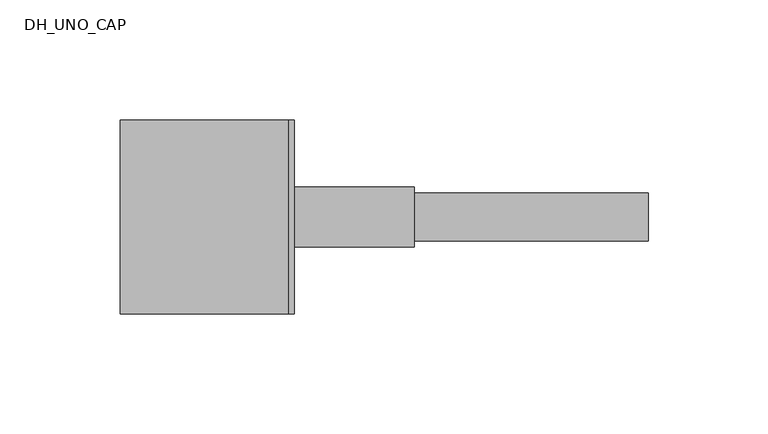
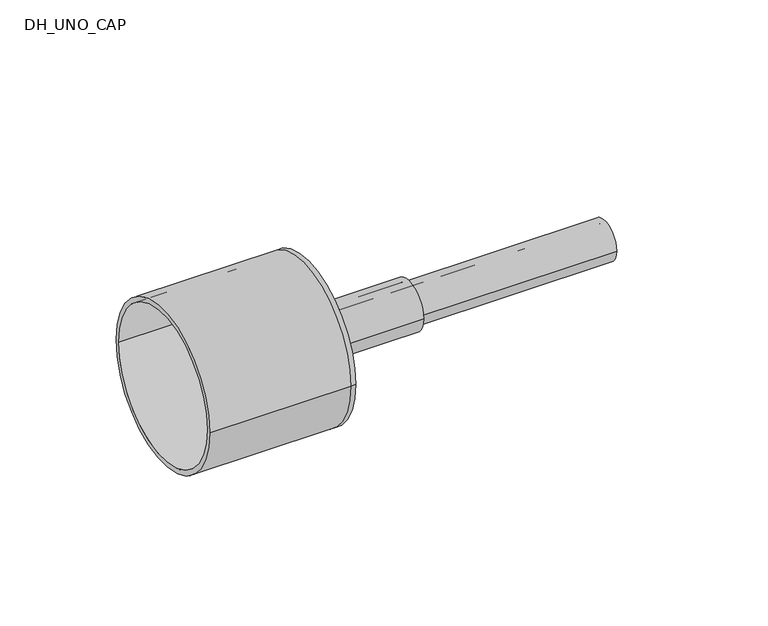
"""IFC4 building model written with IfcOpenShell, lengths in millimetres: pipe fitting geometry, DH_UNO_CAP : RAUTHERMEX UNO 7.4 DW - Schrink Cap."""

from ifc_helpers import new_model, si_unit, point, frame, origin, origin_2d, place, context, project, spatial, polyline, circle_curve, trimmed, segment, composite_curve, outline, extrude, source, transform, mapped, element, save
from ifc_brep_helpers import plane_surface, cylinder_surface, revolved_surface, advanced_brep


def dh_uno_cap_99b91bbb(model_context):
    return source(origin(), model_context, "Body", "SolidModel", [
        extrude(outline(composite_curve([segment(trimmed(circle_curve(origin_2d(), 10.0), [point((-10.0, 0.0))], [point((10.0, 0.0))], False, "CARTESIAN"), True, "CONTINUOUS"), segment(trimmed(circle_curve(origin_2d(), 10.0), [point((10.0, 0.0))], [point((-10.0, 0.0))], False, "CARTESIAN"), True, "CONTINUOUS")], self_intersect=False), holes=[composite_curve([segment(trimmed(circle_curve(origin_2d(), 7.2), [point((-7.2, 0.0))], [point((7.2, 0.0))], True, "CARTESIAN"), True, "CONTINUOUS"), segment(trimmed(circle_curve(origin_2d(), 7.2), [point((7.2, 0.0))], [point((-7.2, 0.0))], True, "CARTESIAN"), True, "CONTINUOUS")], self_intersect=False)]), frame((0.0, 0.0, 0.0), z_axis=(1.0, 0.0, 0.0), x_axis=(0.0, 1.0, 0.0)), (0.0, 0.0, 1.0), 150.0),
        advanced_brep(
        [(-70.0, -40.5, 0.0), (-70.0, 40.5, 0.0), (-70.0, -38.0, 0.0), (-70.0, 38.0, 0.0), (0.0, -38.0, 0.0), (0.0, 38.0, 0.0), (0.0, -40.5, 0.0), (0.0, 40.5, 0.0), (0.0, 10.0, 0.0), (0.0, -10.0, 0.0), (2.5, -40.5, 0.0), (2.5, 40.5, 0.0), (2.5, -10.0, 0.0), (2.5, 10.0, 0.0)],
        [
            (0, 1, circle_curve(frame((-70.0, 0.0, 0.0), z_axis=(-1.0, 0.0, 0.0), x_axis=(0.0, 1.0, 0.0)), 40.5)),
            (1, 0, circle_curve(frame((-70.0, 0.0, 0.0), z_axis=(-1.0, 0.0, 0.0), x_axis=(0.0, 1.0, 0.0)), 40.5)),
            (2, 3, circle_curve(frame((-70.0, 0.0, 0.0), z_axis=(1.0, 0.0, 0.0), x_axis=(0.0, 1.0, 0.0)), 38.0)),
            (3, 2, circle_curve(frame((-70.0, 0.0, 0.0), z_axis=(1.0, 0.0, 0.0), x_axis=(0.0, 1.0, 0.0)), 38.0)),
            (2, 4),
            (4, 5, circle_curve(frame((0.0, 0.0, 0.0), z_axis=(1.0, 0.0, 0.0), x_axis=(0.0, 1.0, 0.0)), 38.0)),
            (5, 3),
            (5, 4, circle_curve(frame((0.0, 0.0, 0.0), z_axis=(1.0, 0.0, 0.0), x_axis=(0.0, 1.0, 0.0)), 38.0)),
            (0, 6),
            (6, 7, circle_curve(frame((0.0, 0.0, 0.0), z_axis=(-1.0, 0.0, 0.0), x_axis=(0.0, 1.0, 0.0)), 40.5)),
            (7, 1),
            (7, 6, circle_curve(frame((0.0, 0.0, 0.0), z_axis=(-1.0, 0.0, 0.0), x_axis=(0.0, 1.0, 0.0)), 40.5)),
            (8, 9, circle_curve(frame((0.0, 0.0, 0.0), z_axis=(1.0, 0.0, 0.0), x_axis=(0.0, 1.0, 0.0)), 10.0)),
            (9, 8, circle_curve(frame((0.0, 0.0, 0.0), z_axis=(1.0, 0.0, 0.0), x_axis=(0.0, 1.0, 0.0)), 10.0)),
            (10, 11, circle_curve(frame((2.5, 0.0, 0.0), z_axis=(1.0, 0.0, 0.0), x_axis=(0.0, 1.0, 0.0)), 40.5)),
            (11, 10, circle_curve(frame((2.5, 0.0, 0.0), z_axis=(1.0, 0.0, 0.0), x_axis=(0.0, 1.0, 0.0)), 40.5)),
            (12, 13, circle_curve(frame((2.5, 0.0, 0.0), z_axis=(-1.0, 0.0, 0.0), x_axis=(0.0, 1.0, 0.0)), 10.0)),
            (13, 12, circle_curve(frame((2.5, 0.0, 0.0), z_axis=(-1.0, 0.0, 0.0), x_axis=(0.0, 1.0, 0.0)), 10.0)),
            (11, 7),
            (6, 10),
            (8, 13),
            (12, 9),
        ],
        [
            plane_surface(frame((-70.0, 0.0, 0.0), z_axis=(-1.0, 0.0, 0.0), x_axis=(0.0, 0.0, 1.0))),
            revolved_surface(polyline([(0.0, 38.0, 0.0), (-70.0, 38.0, 0.0)]), (-70.0, 0.0, 0.0), (1.0, 0.0, 0.0)),
            cylinder_surface(frame((-70.0, 0.0, 0.0), z_axis=(-1.0, 0.0, 0.0), x_axis=(0.0, 1.0, 0.0)), 40.5),
            plane_surface(frame((0.0, 0.0, 0.0), z_axis=(-1.0, 0.0, 0.0), x_axis=(0.0, 0.0, 1.0))),
            plane_surface(frame((2.5, 0.0, 0.0), z_axis=(1.0, 0.0, 0.0), x_axis=(0.0, 0.0, 1.0))),
            cylinder_surface(frame((0.0, 0.0, 0.0), z_axis=(-1.0, 0.0, 0.0), x_axis=(0.0, 1.0, 0.0)), 40.5),
            revolved_surface(polyline([(0.0, 10.0, 0.0), (2.5, 10.0, 0.0)]), (0.0, 0.0, 0.0), (-1.0, 0.0, 0.0)),
        ],
        [
            (0, [[1, 2], [3, 4]]),
            (1, [[-3, 5, 6, 7]]),
            (1, [[-4, -7, 8, -5]]),
            (2, [[-1, 9, 10, 11]]),
            (2, [[-2, -11, 12, -9]]),
            (3, [[-6, -8], [13, 14]]),
            (4, [[15, 16], [17, 18]]),
            (5, [[-16, 19, -10, 20]]),
            (5, [[-15, -20, -12, -19]]),
            (6, [[21, -17, 22, -13]]),
            (6, [[-21, -14, -22, -18]]),
        ],
    ),
        extrude(outline(composite_curve([segment(trimmed(circle_curve(origin_2d(), 12.5), [point((-12.5, 0.0))], [point((12.5, 0.0))], False, "CARTESIAN"), True, "CONTINUOUS"), segment(trimmed(circle_curve(origin_2d(), 12.5), [point((12.5, 0.0))], [point((-12.5, 0.0))], False, "CARTESIAN"), True, "CONTINUOUS")], self_intersect=False), holes=[composite_curve([segment(trimmed(circle_curve(origin_2d(), 10.0), [point((-10.0, 0.0))], [point((10.0, 0.0))], True, "CARTESIAN"), True, "CONTINUOUS"), segment(trimmed(circle_curve(origin_2d(), 10.0), [point((10.0, 0.0))], [point((-10.0, 0.0))], True, "CARTESIAN"), True, "CONTINUOUS")], self_intersect=False)]), frame((2.5, 0.0, 0.0), z_axis=(1.0, 0.0, 0.0), x_axis=(0.0, 1.0, 0.0)), (0.0, 0.0, 1.0), 50.0),
    ])


if __name__ == "__main__":
    model = new_model("IFC4")
    model_context = context("Model", 3, world=origin())
    ifc_project = project(units=[si_unit("LENGTHUNIT", "METRE", prefix="MILLI")], contexts=[model_context])
    site = spatial("IfcSite", under=ifc_project)
    building = spatial("IfcBuilding", under=site)
    placement = place(None, origin())
    dh_uno_cap_shape = dh_uno_cap_99b91bbb(model_context)
    element("IfcPipeFitting", 1, ObjectType="DH_UNO_CAP : RAUTHERMEX UNO 7.4 DW - Schrink Cap", at=placement, inside=building, context=model_context, shape_type="MappedRepresentation", body=[
        mapped(dh_uno_cap_shape, transform((0.0, 0.0, 0.0), x_axis=(1.0, 0.0, 0.0), y_axis=(0.0, 1.0, 0.0), z_axis=(0.0, 0.0, 1.0))),
    ])
    save(model, "model.ifc")
